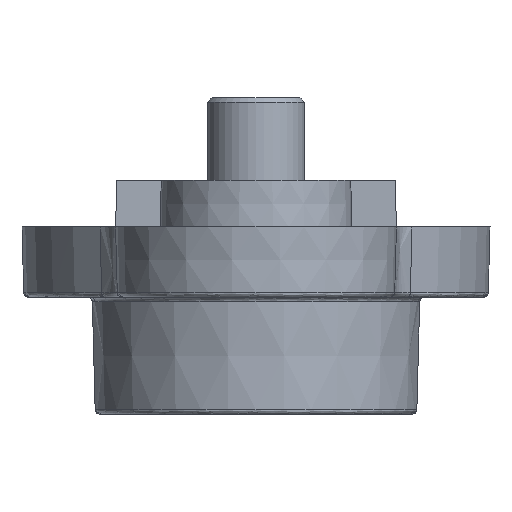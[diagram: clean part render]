
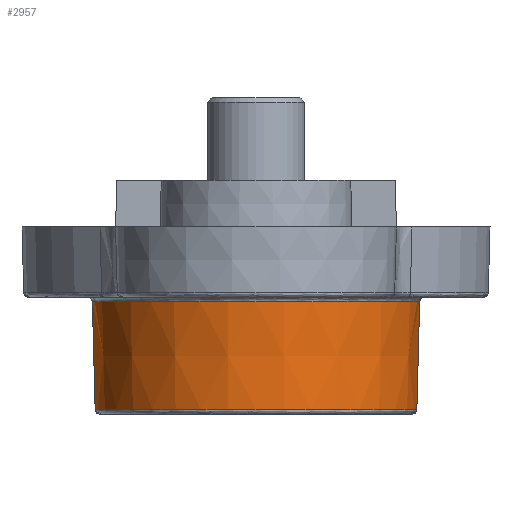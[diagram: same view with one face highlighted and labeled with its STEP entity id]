
A CAD part, left-side view. The second image highlights one B-rep face of the part: STEP entity #2957.
In plain terms, the highlighted conical face has half-angle 1.5 degrees and reference radius 3.497 mm.
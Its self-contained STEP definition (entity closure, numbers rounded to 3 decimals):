
#1 = DIRECTION ( 'NONE',  ( 0., -1., 0. ) ) ;
#24 = CARTESIAN_POINT ( 'NONE',  ( 0., 1.597, -3.497 ) ) ;
#65 = VERTEX_POINT ( 'NONE', #24 ) ;
#265 = CARTESIAN_POINT ( 'NONE',  ( 0., 3.903, 3.437 ) ) ;
#544 = CARTESIAN_POINT ( 'NONE',  ( 0., 1.597, 3.497 ) ) ;
#601 = DIRECTION ( 'NONE',  ( 0., 0., -1. ) ) ;
#630 = VERTEX_POINT ( 'NONE', #2312 ) ;
#769 = CIRCLE ( 'NONE', #1348, 3.497 ) ;
#999 = CARTESIAN_POINT ( 'NONE',  ( 0., 1.597, 0. ) ) ;
#1069 = CARTESIAN_POINT ( 'NONE',  ( 0., -499000., -13070.314 ) ) ;
#1107 = AXIS2_PLACEMENT_3D ( 'NONE', #2355, #1, #3203 ) ;
#1254 = EDGE_CURVE ( 'NONE', #630, #65, #4654, .T. ) ;
#1348 = AXIS2_PLACEMENT_3D ( 'NONE', #4054, #4104, #1989 ) ;
#1381 = CONICAL_SURFACE ( 'NONE', #2662, 3.497, 0.026 ) ;
#1492 = EDGE_LOOP ( 'NONE', ( #4177, #1748, #1650, #2058 ) ) ;
#1650 = ORIENTED_EDGE ( 'NONE', *, *, #4811, .F. ) ;
#1697 = FACE_OUTER_BOUND ( 'NONE', #1492, .T. ) ;
#1748 = ORIENTED_EDGE ( 'NONE', *, *, #5004, .T. ) ;
#1989 = DIRECTION ( 'NONE',  ( 0., 0., -1. ) ) ;
#2058 = ORIENTED_EDGE ( 'NONE', *, *, #4876, .T. ) ;
#2162 = LINE ( 'NONE', #3765, #3590 ) ;
#2312 = CARTESIAN_POINT ( 'NONE',  ( 0., 3.903, -3.437 ) ) ;
#2355 = CARTESIAN_POINT ( 'NONE',  ( 0., 3.903, 0. ) ) ;
#2662 = AXIS2_PLACEMENT_3D ( 'NONE', #999, #3784, #601 ) ;
#2689 = CIRCLE ( 'NONE', #1107, 3.437 ) ;
#2957 = ADVANCED_FACE ( 'NONE', ( #1697 ), #1381, .T. ) ;
#3203 = DIRECTION ( 'NONE',  ( 0., 0., -1. ) ) ;
#3322 = VERTEX_POINT ( 'NONE', #265 ) ;
#3590 = VECTOR ( 'NONE', #4208, 1000. ) ;
#3765 = CARTESIAN_POINT ( 'NONE',  ( 0., 1.5, 3.5 ) ) ;
#3784 = DIRECTION ( 'NONE',  ( 0., -1., 0. ) ) ;
#4054 = CARTESIAN_POINT ( 'NONE',  ( 0., 1.597, 0. ) ) ;
#4104 = DIRECTION ( 'NONE',  ( 0., 1., 0. ) ) ;
#4177 = ORIENTED_EDGE ( 'NONE', *, *, #1254, .T. ) ;
#4208 = DIRECTION ( 'NONE',  ( 0., -1., 0.026 ) ) ;
#4301 = DIRECTION ( 'NONE',  ( 0., -1., -0.026 ) ) ;
#4654 = LINE ( 'NONE', #1069, #5055 ) ;
#4811 = EDGE_CURVE ( 'NONE', #3322, #5087, #2162, .T. ) ;
#4876 = EDGE_CURVE ( 'NONE', #3322, #630, #2689, .T. ) ;
#5004 = EDGE_CURVE ( 'NONE', #65, #5087, #769, .T. ) ;
#5055 = VECTOR ( 'NONE', #4301, 1000. ) ;
#5087 = VERTEX_POINT ( 'NONE', #544 ) ;
